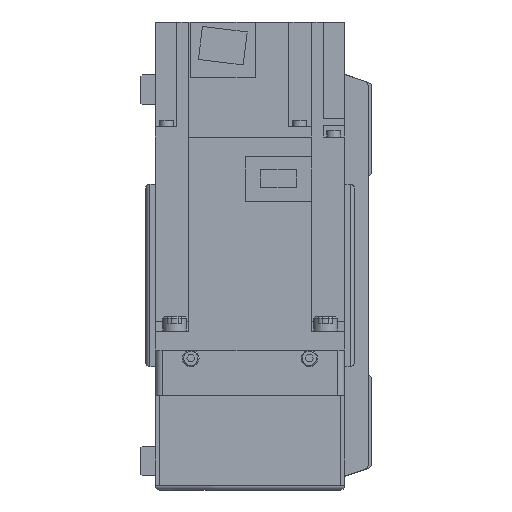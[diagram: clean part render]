
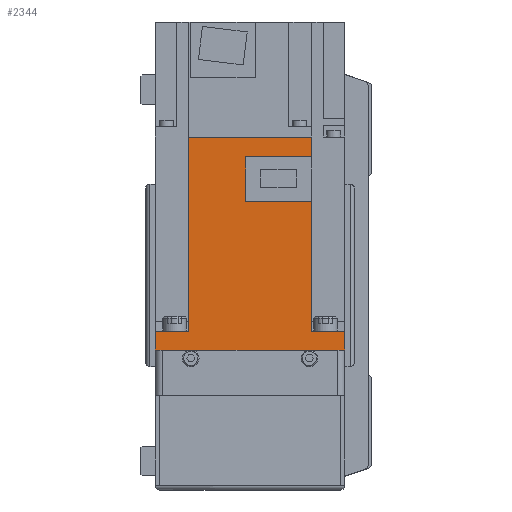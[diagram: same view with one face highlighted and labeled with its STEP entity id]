
A CAD part, left-side view. The second image highlights one B-rep face of the part: STEP entity #2344.
In plain terms, the highlighted planar face has unit normal (-1, 0, 0) as drawn and (1, 0, 0) by its records, which use the part's own axes.
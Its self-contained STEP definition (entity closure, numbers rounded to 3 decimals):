
#2344 = ADVANCED_FACE( '', ( #5112 ), #5113, .F. );
#5112 = FACE_OUTER_BOUND( '', #8296, .T. );
#5113 = PLANE( '', #8297 );
#8296 = EDGE_LOOP( '', ( #14975, #14976, #14977, #14978, #14979, #14980, #14981, #14982, #14983, #14984, #14985, #14986 ) );
#8297 = AXIS2_PLACEMENT_3D( '', #14987, #14988, #14989 );
#14975 = ORIENTED_EDGE( '', *, *, #19063, .F. );
#14976 = ORIENTED_EDGE( '', *, *, #19473, .F. );
#14977 = ORIENTED_EDGE( '', *, *, #19468, .F. );
#14978 = ORIENTED_EDGE( '', *, *, #20653, .T. );
#14979 = ORIENTED_EDGE( '', *, *, #20932, .F. );
#14980 = ORIENTED_EDGE( '', *, *, #20874, .T. );
#14981 = ORIENTED_EDGE( '', *, *, #18538, .T. );
#14982 = ORIENTED_EDGE( '', *, *, #18308, .F. );
#14983 = ORIENTED_EDGE( '', *, *, #18688, .F. );
#14984 = ORIENTED_EDGE( '', *, *, #19475, .F. );
#14985 = ORIENTED_EDGE( '', *, *, #20749, .F. );
#14986 = ORIENTED_EDGE( '', *, *, #19605, .F. );
#14987 = CARTESIAN_POINT( '', ( 40., 89.8, 40. ) );
#14988 = DIRECTION( '', ( -1., 0., 0. ) );
#14989 = DIRECTION( '', ( 0., 0., 1. ) );
#18308 = EDGE_CURVE( '', #21758, #21760, #21761, .T. );
#18538 = EDGE_CURVE( '', #22174, #21760, #22175, .T. );
#18688 = EDGE_CURVE( '', #22440, #21758, #22441, .T. );
#19063 = EDGE_CURVE( '', #23102, #23104, #23105, .T. );
#19468 = EDGE_CURVE( '', #23786, #23782, #23788, .T. );
#19473 = EDGE_CURVE( '', #23782, #23102, #23794, .T. );
#19475 = EDGE_CURVE( '', #23795, #22440, #23797, .T. );
#19605 = EDGE_CURVE( '', #23104, #24004, #24005, .T. );
#20653 = EDGE_CURVE( '', #23786, #25520, #25522, .T. );
#20749 = EDGE_CURVE( '', #24004, #23795, #25647, .T. );
#20874 = EDGE_CURVE( '', #25805, #22174, #25806, .T. );
#20932 = EDGE_CURVE( '', #25805, #25520, #25877, .T. );
#21758 = VERTEX_POINT( '', #26852 );
#21760 = VERTEX_POINT( '', #26855 );
#21761 = LINE( '', #26856, #26857 );
#22174 = VERTEX_POINT( '', #27465 );
#22175 = LINE( '', #27466, #27467 );
#22440 = VERTEX_POINT( '', #27826 );
#22441 = LINE( '', #27827, #27828 );
#23102 = VERTEX_POINT( '', #28872 );
#23104 = VERTEX_POINT( '', #28875 );
#23105 = LINE( '', #28876, #28877 );
#23782 = VERTEX_POINT( '', #29852 );
#23786 = VERTEX_POINT( '', #29858 );
#23788 = LINE( '', #29861, #29862 );
#23794 = LINE( '', #29869, #29870 );
#23795 = VERTEX_POINT( '', #29871 );
#23797 = LINE( '', #29874, #29875 );
#24004 = VERTEX_POINT( '', #30161 );
#24005 = LINE( '', #30162, #30163 );
#25520 = VERTEX_POINT( '', #32279 );
#25522 = LINE( '', #32282, #32283 );
#25647 = LINE( '', #32452, #32453 );
#25805 = VERTEX_POINT( '', #32661 );
#25806 = LINE( '', #32662, #32663 );
#25877 = LINE( '', #32762, #32763 );
#26852 = CARTESIAN_POINT( '', ( 40., 8., -40. ) );
#26855 = CARTESIAN_POINT( '', ( 40., 0., -40. ) );
#26856 = CARTESIAN_POINT( '', ( 40., 89.8, -40. ) );
#26857 = VECTOR( '', #34083, 1000. );
#27465 = CARTESIAN_POINT( '', ( 40., 0., 40. ) );
#27466 = CARTESIAN_POINT( '', ( 40., 0., 40. ) );
#27467 = VECTOR( '', #34373, 1000. );
#27826 = CARTESIAN_POINT( '', ( 40., 8., -25.95 ) );
#27827 = CARTESIAN_POINT( '', ( 40., 8., 40. ) );
#27828 = VECTOR( '', #34575, 1000. );
#28872 = CARTESIAN_POINT( '', ( 40., 81.4, -25.95 ) );
#28875 = CARTESIAN_POINT( '', ( 40., 81.4, 1.8 ) );
#28876 = CARTESIAN_POINT( '', ( 40., 81.4, -26. ) );
#28877 = VECTOR( '', #35073, 1000. );
#29852 = CARTESIAN_POINT( '', ( 40., 89.8, -25.95 ) );
#29858 = CARTESIAN_POINT( '', ( 40., 89.8, 25.95 ) );
#29861 = CARTESIAN_POINT( '', ( 40., 89.8, 40. ) );
#29862 = VECTOR( '', #35601, 1000. );
#29869 = CARTESIAN_POINT( '', ( 40., 158., -25.95 ) );
#29870 = VECTOR( '', #35606, 1000. );
#29871 = CARTESIAN_POINT( '', ( 40., 62.8, -25.95 ) );
#29874 = CARTESIAN_POINT( '', ( 40., 158., -25.95 ) );
#29875 = VECTOR( '', #35608, 1000. );
#30161 = CARTESIAN_POINT( '', ( 40., 62.8, 1.8 ) );
#30162 = CARTESIAN_POINT( '', ( 40., 81.4, 1.8 ) );
#30163 = VECTOR( '', #35765, 1000. );
#32279 = CARTESIAN_POINT( '', ( 40., 8., 25.95 ) );
#32282 = CARTESIAN_POINT( '', ( 40., 158., 25.95 ) );
#32283 = VECTOR( '', #37068, 1000. );
#32452 = CARTESIAN_POINT( '', ( 40., 62.8, 1.8 ) );
#32453 = VECTOR( '', #37178, 1000. );
#32661 = CARTESIAN_POINT( '', ( 40., 8., 40. ) );
#32662 = CARTESIAN_POINT( '', ( 40., 89.8, 40. ) );
#32663 = VECTOR( '', #37301, 1000. );
#32762 = CARTESIAN_POINT( '', ( 40., 8., 40. ) );
#32763 = VECTOR( '', #37357, 1000. );
#34083 = DIRECTION( '', ( 0., -1., 0. ) );
#34373 = DIRECTION( '', ( 0., 0., -1. ) );
#34575 = DIRECTION( '', ( 0., 0., -1. ) );
#35073 = DIRECTION( '', ( 0., 0., 1. ) );
#35601 = DIRECTION( '', ( 0., 0., -1. ) );
#35606 = DIRECTION( '', ( 0., -1., 0. ) );
#35608 = DIRECTION( '', ( 0., -1., 0. ) );
#35765 = DIRECTION( '', ( 0., -1., 0. ) );
#37068 = DIRECTION( '', ( 0., -1., 0. ) );
#37178 = DIRECTION( '', ( 0., 0., -1. ) );
#37301 = DIRECTION( '', ( 0., -1., 0. ) );
#37357 = DIRECTION( '', ( 0., 0., -1. ) );
